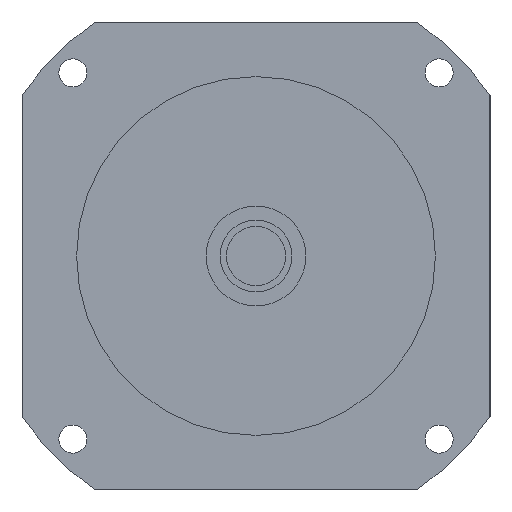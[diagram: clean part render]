
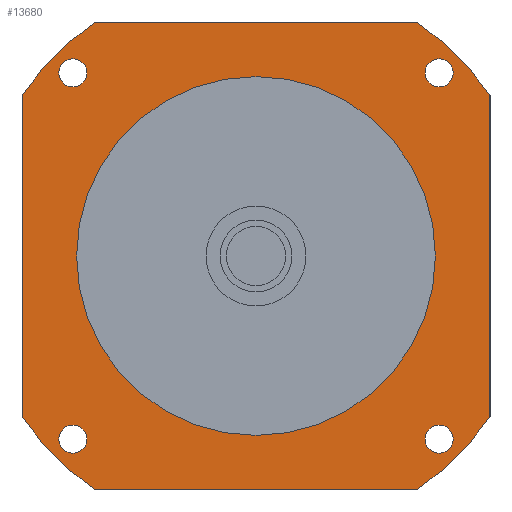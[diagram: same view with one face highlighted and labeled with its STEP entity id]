
A CAD part, left-side view. The second image highlights one B-rep face of the part: STEP entity #13680.
In plain terms, the highlighted planar face has unit normal (-1, 0, 0) as drawn and (0, 0, -1) by its records, which use the part's own axes.
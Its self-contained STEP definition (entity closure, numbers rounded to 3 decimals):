
#8870=CARTESIAN_POINT('',(75.,51.536,-62.2));
#8880=VERTEX_POINT('',#8870);
#8930=CARTESIAN_POINT('',(75.,75.,-62.2));
#8940=DIRECTION('',(0.,-1.,0.));
#8950=VECTOR('',#8940,1000.);
#8960=LINE('',#8930,#8950);
#8970=CARTESIAN_POINT('',(75.,-51.536,-62.2));
#8980=VERTEX_POINT('',#8970);
#8990=EDGE_CURVE('',#8880,#8980,#8960,.T.);
#9270=CARTESIAN_POINT('',(-51.536,75.,-62.2));
#9280=VERTEX_POINT('',#9270);
#9460=CARTESIAN_POINT('',(-75.,51.536,-62.2));
#9470=VERTEX_POINT('',#9460);
#9500=CARTESIAN_POINT('',(0.,0.,
-62.2));
#9510=DIRECTION('',(0.,0.,-1.));
#9520=DIRECTION('',(1.,0.,0.));
#9530=AXIS2_PLACEMENT_3D('',#9500,#9510,#9520);
#9540=CIRCLE('',#9530,91.);
#9550=EDGE_CURVE('',#9470,#9280,#9540,.T.);
#12200=CARTESIAN_POINT('',(-54.19,58.69,-62.2));
#12210=VERTEX_POINT('',#12200);
#12240=CARTESIAN_POINT('',(-58.69,58.69,-62.2));
#12250=DIRECTION('',(0.,0.,-1.));
#12260=DIRECTION('',(-1.,0.,0.));
#12270=AXIS2_PLACEMENT_3D('',#12240,#12250,#12260);
#12280=CIRCLE('',#12270,4.5);
#12290=CARTESIAN_POINT('',(-63.19,58.69,-62.2));
#12300=VERTEX_POINT('',#12290);
#12310=EDGE_CURVE('',#12300,#12210,#12280,.T.);
#12430=CARTESIAN_POINT('',(75.,75.,-62.2));
#12440=DIRECTION('',(0.,0.,-1.));
#12450=DIRECTION('',(1.,0.,0.));
#12460=AXIS2_PLACEMENT_3D('',#12430,#12440,#12450);
#12470=PLANE('',#12460);
#12480=ORIENTED_EDGE('',*,*,#12310,.F.);
#12490=EDGE_CURVE('',#12210,#12300,#12280,.T.);
#12500=ORIENTED_EDGE('',*,*,#12490,.F.);
#12510=EDGE_LOOP('',(#12500,#12480));
#12520=FACE_BOUND('',#12510,.T.);
#12530=CARTESIAN_POINT('',(58.69,58.69,-62.2));
#12540=DIRECTION('',(0.,0.,-1.));
#12550=DIRECTION('',(0.,1.,0.));
#12560=AXIS2_PLACEMENT_3D('',#12530,#12540,#12550);
#12570=CIRCLE('',#12560,4.5);
#12580=CARTESIAN_POINT('',(58.69,63.19,-62.2));
#12590=VERTEX_POINT('',#12580);
#12600=CARTESIAN_POINT('',(58.69,54.19,-62.2));
#12610=VERTEX_POINT('',#12600);
#12620=EDGE_CURVE('',#12590,#12610,#12570,.T.);
#12630=ORIENTED_EDGE('',*,*,#12620,.F.);
#12640=EDGE_CURVE('',#12610,#12590,#12570,.T.);
#12650=ORIENTED_EDGE('',*,*,#12640,.F.);
#12660=EDGE_LOOP('',(#12650,#12630));
#12670=FACE_BOUND('',#12660,.T.);
#12680=CARTESIAN_POINT('',(0.,0.,
-62.2));
#12690=DIRECTION('',(0.,0.,1.));
#12700=DIRECTION('',(0.,1.,0.));
#12710=AXIS2_PLACEMENT_3D('',#12680,#12690,#12700);
#12720=CIRCLE('',#12710,57.5);
#12730=CARTESIAN_POINT('',(-57.5,0.,-62.2));
#12740=VERTEX_POINT('',#12730);
#12750=CARTESIAN_POINT('',(57.5,0.,-62.2));
#12760=VERTEX_POINT('',#12750);
#12770=EDGE_CURVE('',#12740,#12760,#12720,.T.);
#12780=ORIENTED_EDGE('',*,*,#12770,.T.);
#12790=CARTESIAN_POINT('',(0.,57.5,-62.2));
#12800=VERTEX_POINT('',#12790);
#12810=EDGE_CURVE('',#12800,#12740,#12720,.T.);
#12820=ORIENTED_EDGE('',*,*,#12810,.T.);
#12830=EDGE_CURVE('',#12760,#12800,#12720,.T.);
#12840=ORIENTED_EDGE('',*,*,#12830,.T.);
#12850=EDGE_LOOP('',(#12840,#12820,#12780));
#12860=FACE_BOUND('',#12850,.T.);
#12870=CARTESIAN_POINT('',(58.69,-58.69,-62.2));
#12880=DIRECTION('',(0.,0.,-1.));
#12890=DIRECTION('',(1.,0.,0.));
#12900=AXIS2_PLACEMENT_3D('',#12870,#12880,#12890);
#12910=CIRCLE('',#12900,4.5);
#12920=CARTESIAN_POINT('',(63.19,-58.69,-62.2));
#12930=VERTEX_POINT('',#12920);
#12940=CARTESIAN_POINT('',(54.19,-58.69,-62.2));
#12950=VERTEX_POINT('',#12940);
#12960=EDGE_CURVE('',#12930,#12950,#12910,.T.);
#12970=ORIENTED_EDGE('',*,*,#12960,.F.);
#12980=EDGE_CURVE('',#12950,#12930,#12910,.T.);
#12990=ORIENTED_EDGE('',*,*,#12980,.F.);
#13000=EDGE_LOOP('',(#12990,#12970));
#13010=FACE_BOUND('',#13000,.T.);
#13020=CARTESIAN_POINT('',(-58.69,-58.69,-62.2));
#13030=DIRECTION('',(0.,0.,-1.));
#13040=DIRECTION('',(0.,-1.,0.));
#13050=AXIS2_PLACEMENT_3D('',#13020,#13030,#13040);
#13060=CIRCLE('',#13050,4.5);
#13070=CARTESIAN_POINT('',(-58.69,-63.19,-62.2));
#13080=VERTEX_POINT('',#13070);
#13090=CARTESIAN_POINT('',(-58.69,-54.19,-62.2));
#13100=VERTEX_POINT('',#13090);
#13110=EDGE_CURVE('',#13080,#13100,#13060,.T.);
#13120=ORIENTED_EDGE('',*,*,#13110,.F.);
#13130=EDGE_CURVE('',#13100,#13080,#13060,.T.);
#13140=ORIENTED_EDGE('',*,*,#13130,.F.);
#13150=EDGE_LOOP('',(#13140,#13120));
#13160=FACE_BOUND('',#13150,.T.);
#13170=CARTESIAN_POINT('',(-75.,75.,-62.2));
#13180=DIRECTION('',(1.,0.,0.));
#13190=VECTOR('',#13180,1000.);
#13200=LINE('',#13170,#13190);
#13210=CARTESIAN_POINT('',(51.536,75.,-62.2));
#13220=VERTEX_POINT('',#13210);
#13230=EDGE_CURVE('',#9280,#13220,#13200,.T.);
#13240=ORIENTED_EDGE('',*,*,#13230,.T.);
#13250=ORIENTED_EDGE('',*,*,#9550,.T.);
#13260=CARTESIAN_POINT('',(-75.,-75.,-62.2));
#13270=DIRECTION('',(0.,1.,0.));
#13280=VECTOR('',#13270,1000.);
#13290=LINE('',#13260,#13280);
#13300=CARTESIAN_POINT('',(-75.,-51.536,-62.2));
#13310=VERTEX_POINT('',#13300);
#13320=EDGE_CURVE('',#13310,#9470,#13290,.T.);
#13330=ORIENTED_EDGE('',*,*,#13320,.T.);
#13340=CARTESIAN_POINT('',(0.,0.,
-62.2));
#13350=DIRECTION('',(0.,0.,-1.));
#13360=DIRECTION('',(1.,0.,0.));
#13370=AXIS2_PLACEMENT_3D('',#13340,#13350,#13360);
#13380=CIRCLE('',#13370,91.);
#13390=CARTESIAN_POINT('',(-51.536,-75.,-62.2));
#13400=VERTEX_POINT('',#13390);
#13410=EDGE_CURVE('',#13400,#13310,#13380,.T.);
#13420=ORIENTED_EDGE('',*,*,#13410,.T.);
#13430=CARTESIAN_POINT('',(75.,-75.,-62.2));
#13440=DIRECTION('',(-1.,0.,0.));
#13450=VECTOR('',#13440,1000.);
#13460=LINE('',#13430,#13450);
#13470=CARTESIAN_POINT('',(51.536,-75.,-62.2));
#13480=VERTEX_POINT('',#13470);
#13490=EDGE_CURVE('',#13480,#13400,#13460,.T.);
#13500=ORIENTED_EDGE('',*,*,#13490,.T.);
#13510=CARTESIAN_POINT('',(0.,0.,
-62.2));
#13520=DIRECTION('',(0.,0.,-1.));
#13530=DIRECTION('',(1.,0.,0.));
#13540=AXIS2_PLACEMENT_3D('',#13510,#13520,#13530);
#13550=CIRCLE('',#13540,91.);
#13560=EDGE_CURVE('',#8980,#13480,#13550,.T.);
#13570=ORIENTED_EDGE('',*,*,#13560,.T.);
#13580=ORIENTED_EDGE('',*,*,#8990,.T.);
#13590=CARTESIAN_POINT('',(0.,0.,
-62.2));
#13600=DIRECTION('',(0.,0.,-1.));
#13610=DIRECTION('',(1.,0.,0.));
#13620=AXIS2_PLACEMENT_3D('',#13590,#13600,#13610);
#13630=CIRCLE('',#13620,91.);
#13640=EDGE_CURVE('',#13220,#8880,#13630,.T.);
#13650=ORIENTED_EDGE('',*,*,#13640,.T.);
#13660=EDGE_LOOP('',(#13650,#13580,#13570,#13500,#13420,#13330,#13250,
#13240));
#13670=FACE_OUTER_BOUND('',#13660,.T.);
#13680=ADVANCED_FACE('',(#12520,#12670,#12860,#13010,#13160,#13670),
#12470,.T.);
